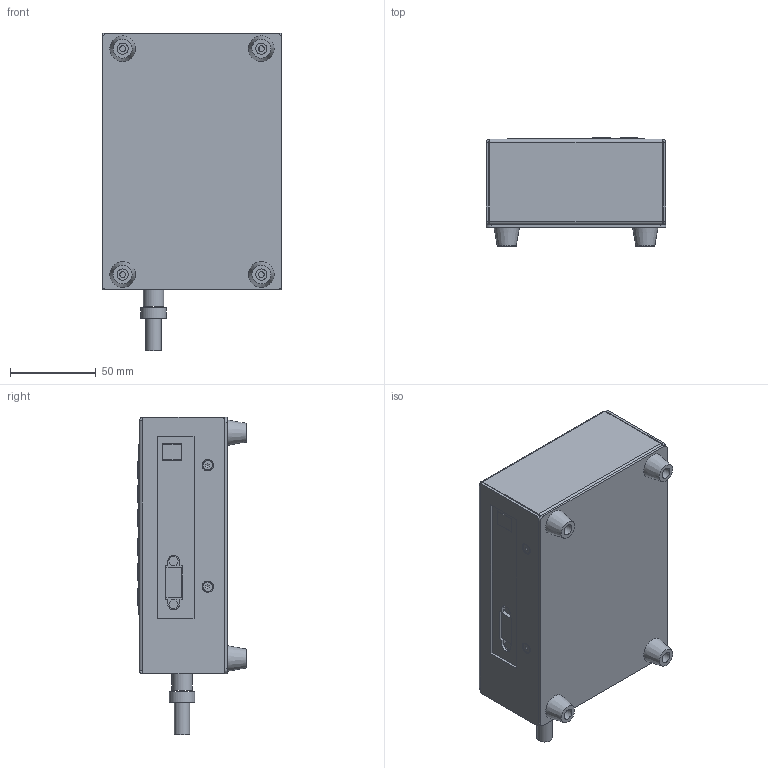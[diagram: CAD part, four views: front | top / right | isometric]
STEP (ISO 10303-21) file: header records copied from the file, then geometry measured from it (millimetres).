
FILE_DESCRIPTION (( 'STEP AP203' ), '1' );
FILE_NAME ('ZD-100-F 分体式扭力测试仪.STEP', '2026-10-16T11:48:06', ( 'Windows User' ), ( 'P R C' ), 'SwSTEP 2.0', 'SolidWorks 2025', '' );
FILE_SCHEMA (( 'CONFIG_CONTROL_DESIGN' ));
Length unit declared in the file: millimetre
Products named in the file (1): ZD-100-F 分体式扭力测试仪
Bounding box: 105 x 63.35 x 185.5 mm (x, y, z)
Surface area: 129867.7 mm2 (no closed solid volume)
Topology: 0 solids, 49 shells, 518 faces, 3544 edges, 3234 vertices
Faces by surface type: plane 404, cylinder 98, cone 16
Full cylindrical faces by diameter (mm): 3 x16, 4.2 x2, 6.5 x4, 9 x1, 12 x1, 15 x1
Entity records: 41923 total; most frequent: CARTESIAN_POINT 18221, ORIENTED_EDGE 6435, EDGE_CURVE 3487, VERTEX_POINT 3218, DIRECTION 2509, B_SPLINE_CURVE_WITH_KNOTS 2417, AXIS2_PLACEMENT_3D 920, EDGE_LOOP 906
